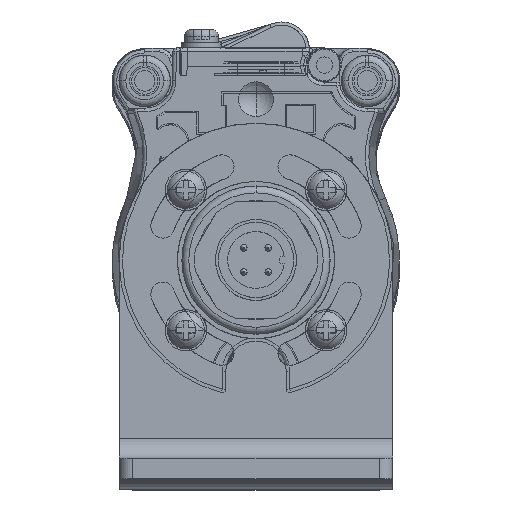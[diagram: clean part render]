
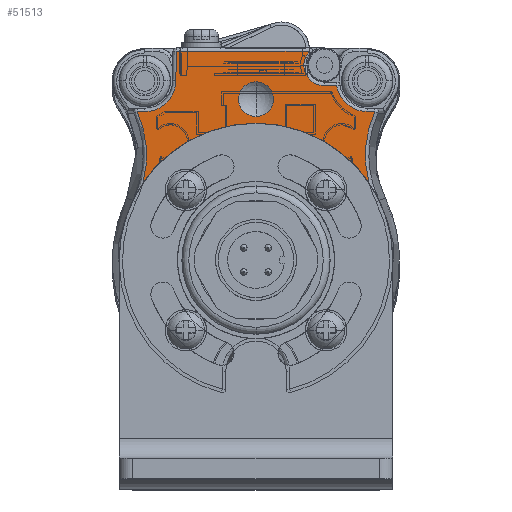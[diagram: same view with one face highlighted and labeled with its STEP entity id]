
A CAD part, top view. The second image highlights one B-rep face of the part: STEP entity #51513.
In plain terms, the highlighted planar face has unit normal (0, 0, 1).
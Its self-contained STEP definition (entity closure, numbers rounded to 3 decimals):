
#2082=CARTESIAN_POINT('',(0.,0.,50.));
#2083=DIRECTION('',(0.,0.,1.));
#2084=DIRECTION('',(0.826,0.563,0.));
#2085=AXIS2_PLACEMENT_3D('',#2082,#2083,#2084);
#2090=CARTESIAN_POINT('',(-31.48,15.3,50.));
#2091=DIRECTION('',(0.,0.,-1.));
#2092=DIRECTION('',(0.911,0.413,0.));
#2093=AXIS2_PLACEMENT_3D('',#2090,#2091,#2092);
#2098=DIRECTION('',(-1.,0.,0.));
#2099=VECTOR('',#2098,1.114);
#2100=CARTESIAN_POINT('',(-16.26,21.7,50.));
#2101=LINE('',#2100,#2099);
#2105=CARTESIAN_POINT('',(-16.26,26.25,50.));
#2106=DIRECTION('',(0.,0.,-1.));
#2107=DIRECTION('',(1.,-0.001,0.));
#2108=AXIS2_PLACEMENT_3D('',#2105,#2106,#2107);
#2113=DIRECTION('',(-0.017,-1.,0.));
#2114=VECTOR('',#2113,4.255);
#2115=CARTESIAN_POINT('',(-11.636,30.5,50.));
#2116=LINE('',#2115,#2114);
#2120=DIRECTION('',(-1.,0.,0.));
#2121=VECTOR('',#2120,19.4);
#2122=CARTESIAN_POINT('',(7.764,30.5,50.));
#2123=LINE('',#2122,#2121);
#2127=CARTESIAN_POINT('',(10.,28.5,50.));
#2128=DIRECTION('',(0.,0.,-1.));
#2129=DIRECTION('',(0.,-1.,0.));
#2130=AXIS2_PLACEMENT_3D('',#2127,#2128,#2129);
#2135=DIRECTION('',(-1.,0.,0.));
#2136=VECTOR('',#2135,1.762);
#2137=CARTESIAN_POINT('',(11.762,25.5,50.));
#2138=LINE('',#2137,#2136);
#2142=CARTESIAN_POINT('',(16.25,26.25,50.));
#2143=DIRECTION('',(0.,0.,-1.));
#2144=DIRECTION('',(0.,-1.,0.));
#2145=AXIS2_PLACEMENT_3D('',#2142,#2143,#2144);
#2150=DIRECTION('',(-1.,0.,0.));
#2151=VECTOR('',#2150,1.124);
#2152=CARTESIAN_POINT('',(17.374,21.7,50.));
#2153=LINE('',#2152,#2151);
#2157=CARTESIAN_POINT('',(31.48,15.3,50.));
#2158=DIRECTION('',(0.,0.,-1.));
#2159=DIRECTION('',(-0.966,-0.26,0.));
#2160=AXIS2_PLACEMENT_3D('',#2157,#2158,#2159);
#2165=CARTESIAN_POINT('',(0.,23.51,50.));
#2166=DIRECTION('',(0.,0.,1.));
#2167=DIRECTION('',(0.,-1.,0.));
#2168=AXIS2_PLACEMENT_3D('',#2165,#2166,#2167);
#2173=CARTESIAN_POINT('',(0.,23.51,50.));
#2174=DIRECTION('',(0.,0.,1.));
#2175=DIRECTION('',(0.,1.,0.));
#2176=AXIS2_PLACEMENT_3D('',#2173,#2174,#2175);
#45325=CARTESIAN_POINT('',(-11.71,26.246,50.));
#45326=CARTESIAN_POINT('',(-16.26,21.7,50.));
#45327=VERTEX_POINT('',#45325);
#45328=VERTEX_POINT('',#45326);
#45335=CARTESIAN_POINT('',(-11.636,30.5,50.));
#45336=VERTEX_POINT('',#45335);
#45339=CARTESIAN_POINT('',(7.764,30.5,50.));
#45340=VERTEX_POINT('',#45339);
#45345=CARTESIAN_POINT('',(10.,25.5,50.));
#45346=VERTEX_POINT('',#45345);
#45349=CARTESIAN_POINT('',(11.762,25.5,50.));
#45350=VERTEX_POINT('',#45349);
#45355=CARTESIAN_POINT('',(16.25,21.7,50.));
#45356=VERTEX_POINT('',#45355);
#45359=CARTESIAN_POINT('',(17.374,21.7,50.));
#45360=VERTEX_POINT('',#45359);
#45385=CARTESIAN_POINT('',(-17.374,21.7,50.));
#45386=VERTEX_POINT('',#45385);
#45452=CARTESIAN_POINT('',(0.,20.97,50.));
#45453=CARTESIAN_POINT('',(0.,26.05,50.));
#45454=VERTEX_POINT('',#45452);
#45455=VERTEX_POINT('',#45453);
#47168=CARTESIAN_POINT('',(16.525,11.267,50.));
#47169=CARTESIAN_POINT('',(-16.525,11.267,50.));
#47170=VERTEX_POINT('',#47168);
#47171=VERTEX_POINT('',#47169);
#51479=CARTESIAN_POINT('',(0.,0.,50.));
#51480=DIRECTION('',(0.,0.,1.));
#51481=DIRECTION('',(1.,0.,0.));
#51482=AXIS2_PLACEMENT_3D('',#51479,#51480,#51481);
#51483=PLANE('',#51482);
#51485=ORIENTED_EDGE('',*,*,#51484,.T.);
#51487=ORIENTED_EDGE('',*,*,#51486,.F.);
#51489=ORIENTED_EDGE('',*,*,#51488,.F.);
#51491=ORIENTED_EDGE('',*,*,#51490,.F.);
#51493=ORIENTED_EDGE('',*,*,#51492,.F.);
#51495=ORIENTED_EDGE('',*,*,#51494,.F.);
#51497=ORIENTED_EDGE('',*,*,#51496,.F.);
#51499=ORIENTED_EDGE('',*,*,#51498,.F.);
#51500=ORIENTED_EDGE('',*,*,#51462,.F.);
#51502=ORIENTED_EDGE('',*,*,#51501,.F.);
#51504=ORIENTED_EDGE('',*,*,#51503,.F.);
#51505=EDGE_LOOP('',(#51485,#51487,#51489,#51491,#51493,#51495,#51497,#51499,
#51500,#51502,#51504));
#51506=FACE_OUTER_BOUND('',#51505,.F.);
#51508=ORIENTED_EDGE('',*,*,#51507,.T.);
#51510=ORIENTED_EDGE('',*,*,#51509,.T.);
#51511=EDGE_LOOP('',(#51508,#51510));
#51512=FACE_BOUND('',#51511,.F.);
#2086=CIRCLE('',#2085,20.);
#2094=CIRCLE('',#2093,15.49);
#2109=CIRCLE('',#2108,4.55);
#2131=CIRCLE('',#2130,3.);
#2146=CIRCLE('',#2145,4.55);
#2161=CIRCLE('',#2160,15.49);
#2169=CIRCLE('',#2168,2.54);
#2177=CIRCLE('',#2176,2.54);
#51462=EDGE_CURVE('',#45356,#45350,#2146,.T.);
#51484=EDGE_CURVE('',#47170,#47171,#2086,.T.);
#51486=EDGE_CURVE('',#45386,#47171,#2094,.T.);
#51488=EDGE_CURVE('',#45328,#45386,#2101,.T.);
#51490=EDGE_CURVE('',#45327,#45328,#2109,.T.);
#51492=EDGE_CURVE('',#45336,#45327,#2116,.T.);
#51494=EDGE_CURVE('',#45340,#45336,#2123,.T.);
#51496=EDGE_CURVE('',#45346,#45340,#2131,.T.);
#51498=EDGE_CURVE('',#45350,#45346,#2138,.T.);
#51501=EDGE_CURVE('',#45360,#45356,#2153,.T.);
#51503=EDGE_CURVE('',#47170,#45360,#2161,.T.);
#51507=EDGE_CURVE('',#45454,#45455,#2169,.T.);
#51509=EDGE_CURVE('',#45455,#45454,#2177,.T.);
#51513=ADVANCED_FACE('',(#51506,#51512),#51483,.T.);
